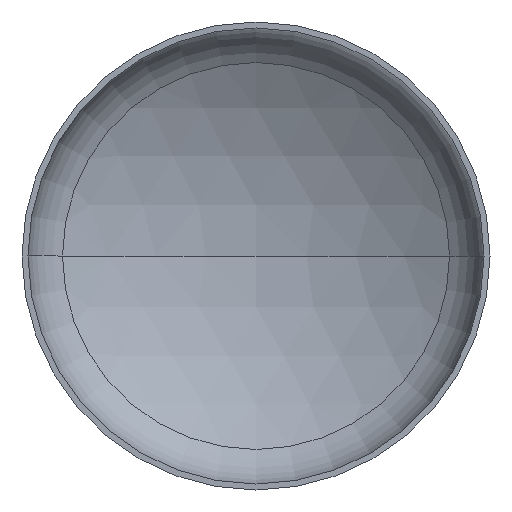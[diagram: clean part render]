
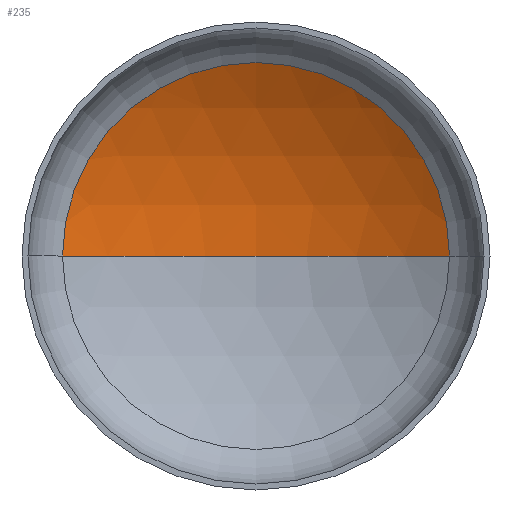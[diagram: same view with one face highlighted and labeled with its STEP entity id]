
A CAD part, front view. The second image highlights one B-rep face of the part: STEP entity #235.
In plain terms, the highlighted spherical face has radius 1440 mm.
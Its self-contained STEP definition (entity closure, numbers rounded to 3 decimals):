
#21 = EDGE_LOOP ( 'NONE', ( #31, #122, #119 ) ) ;
#31 = ORIENTED_EDGE ( 'NONE', *, *, #273, .F. ) ;
#51 = VERTEX_POINT ( 'NONE', #315 ) ;
#57 = CARTESIAN_POINT ( 'NONE',  ( 0., -927.407, 0. ) ) ;
#89 = SPHERICAL_SURFACE ( 'NONE', #304, 1440. ) ;
#94 = VERTEX_POINT ( 'NONE', #407 ) ;
#95 = DIRECTION ( 'NONE',  ( -1., 0., 0. ) ) ;
#105 = DIRECTION ( 'NONE',  ( 0., 0., -1. ) ) ;
#107 = CARTESIAN_POINT ( 'NONE',  ( 0., -927.407, 0. ) ) ;
#119 = ORIENTED_EDGE ( 'NONE', *, *, #123, .T. ) ;
#122 = ORIENTED_EDGE ( 'NONE', *, *, #282, .T. ) ;
#123 = EDGE_CURVE ( 'NONE', #94, #129, #141, .T. ) ;
#129 = VERTEX_POINT ( 'NONE', #180 ) ;
#141 = CIRCLE ( 'NONE', #410, 744.103 ) ;
#146 = DIRECTION ( 'NONE',  ( 0., 0., -1. ) ) ;
#177 = DIRECTION ( 'NONE',  ( -1., 0., 0. ) ) ;
#180 = CARTESIAN_POINT ( 'NONE',  ( -744.103, 305.439, 0. ) ) ;
#211 = DIRECTION ( 'NONE',  ( 0., -1., 0. ) ) ;
#212 = DIRECTION ( 'NONE',  ( 1., 0., 0. ) ) ;
#217 = CARTESIAN_POINT ( 'NONE',  ( 0., 305.439, 0. ) ) ;
#235 = ADVANCED_FACE ( 'NONE', ( #402 ), #89, .F. ) ;
#273 = EDGE_CURVE ( 'NONE', #51, #129, #324, .T. ) ;
#275 = CARTESIAN_POINT ( 'NONE',  ( 0., -927.407, 0. ) ) ;
#280 = DIRECTION ( 'NONE',  ( 0., 0., 1. ) ) ;
#282 = EDGE_CURVE ( 'NONE', #51, #94, #309, .T. ) ;
#285 = DIRECTION ( 'NONE',  ( 1., 0., 0. ) ) ;
#288 = AXIS2_PLACEMENT_3D ( 'NONE', #275, #280, #285 ) ;
#304 = AXIS2_PLACEMENT_3D ( 'NONE', #107, #146, #177 ) ;
#309 = CIRCLE ( 'NONE', #345, 1440. ) ;
#315 = CARTESIAN_POINT ( 'NONE',  ( 0., 512.593, 0. ) ) ;
#324 = CIRCLE ( 'NONE', #288, 1440. ) ;
#345 = AXIS2_PLACEMENT_3D ( 'NONE', #57, #105, #95 ) ;
#402 = FACE_OUTER_BOUND ( 'NONE', #21, .T. ) ;
#407 = CARTESIAN_POINT ( 'NONE',  ( 744.103, 305.439, 0. ) ) ;
#410 = AXIS2_PLACEMENT_3D ( 'NONE', #217, #211, #212 ) ;
